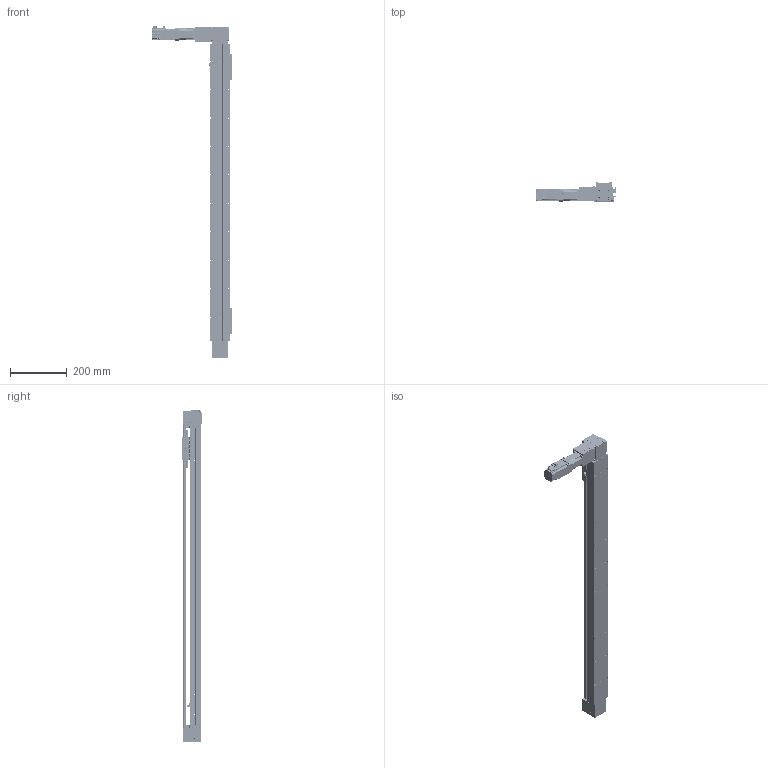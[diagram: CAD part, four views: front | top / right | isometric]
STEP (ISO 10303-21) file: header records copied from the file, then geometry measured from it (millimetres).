
FILE_DESCRIPTION(/* description */ (''),/* implementation_level */ '2;1');
FILE_NAME(/* name */ '\\192.168.0.160\disk1\HAN SHIN Master\B-설계부문\C-표준\B-2024년\BC02-표준도면\+로봇 개선표준도면\홈페이지 표준 도면\홈페이지 최종 작업 폴더\3D\HB\HSB55\HB55-SL1G-N-0900-R.stp',/* time_stamp */ '2025-06-03T10:03:53+09:00',/* author */ ('user'),/* organization */ (''),/* preprocessor_version */ 'ST-DEVELOPER v18.1',/* originating_system */ 'Autodesk Inventor 2022',/* authorisation */ '');
FILE_SCHEMA (('AUTOMOTIVE_DESIGN { 1 0 10303 214 3 1 1 }'));
Products named in the file (38): HSB55-SL; HSB55 BASE; HSB55 TABLE; UPCOVER; HSB55 HOUSING (Connecting); HSB160 SHAFT-1; HSB55 FRONT HOUSIONG; HSB55 REAR SHAFT-1; HSB55 REAR SHAFT; HSB55 DOWN CLAMP; M4-25(렌치볼트); HSB55 HOUSING-R1; HSB55 TENSION PLATE; ISO 4032 - M4; HSB160 BEARING OVER; SDWA-31C; HSB55 UP CLAMP; M4-12(렌치볼트); HR45 SENSOR DOG; HR45 SENSOR RAIL; hsr_ftht_A-M6F_grease_nipple_joint; NIPPLE CAP(신규); HR45 STOPPER; HSB55 END COVER; PGX44-H-1_3; COUPLING COVER; EC-6202ZZ; EC-6202ZZ Inner ring; EC-6202ZZ Outer ring; EC-6202ZZ St; EC-6202ZZ Ball; EC-6202ZZ B1; HSB55 MOTOR BKT 01; HSB55 MOTOR BKT 02; HSB55 ACRYL COVER-R1; HSB55 ACRYL COVER; EE_SX674A; hg-kr13_
Assembly tree (61 placements, depth 3):
  HSB55-SL
    HSB55 BASE
    HSB55 TABLE
    UPCOVER
    HSB55 FRONT HOUSIONG  x2
    HSB55 HOUSING (Connecting)
    HSB160 SHAFT-1
    HSB55 REAR SHAFT-1
    #109336  x2
    HSB55 REAR SHAFT
    HSB55 DOWN CLAMP  x2
    HSB55 UP CLAMP  x2
    M4-25(렌치볼트)
    ISO 4032 - M4  x2
    HSB55 HOUSING-R1
    HSB55 TENSION PLATE  x2
    HSB160 BEARING OVER
    SDWA-31C
    M4-12(렌치볼트)
    HR45 SENSOR DOG
    HR45 SENSOR RAIL  x2
    EE_SX674A  x3
    hsr_ftht_A-M6F_grease_nipple_joint
    NIPPLE CAP(신규)
    HR45 STOPPER  x2
    HSB55 END COVER
    PGX44-H-1_3
    HSB55 MOTOR BKT 02  x2
    COUPLING COVER
    EC-6202ZZ  x2
      EC-6202ZZ Inner ring
      EC-6202ZZ Outer ring
      EC-6202ZZ B1
      EC-6202ZZ St
      EC-6202ZZ Ball
    HSB55 MOTOR BKT 01
    HSB55 ACRYL COVER  x4
    HSB55 ACRYL COVER-R1
    hg-kr13_
Bounding box: 284.4 x 69.2 x 1167.8 mm (x, y, z)
Volume: 2052171.1 mm3; surface area: 864514.8 mm2
Topology: 87 solids, 119 shells, 4585 faces, 12249 edges, 7960 vertices
Faces by surface type: plane 2800, cylinder 1286, cone 352, torus 103, sphere 22, bspline 22
Full cylindrical faces by diameter (mm): 1 x2, 2 x3, 2.013 x4, 2.459 x70, 2.5 x25, 3 x37, 3.1 x2, 3.242 x78, 3.3 x13, 3.5 x83, 4 x20, 4.134 x20, 4.2 x4, 4.5 x40, 4.917 x2, 5 x29, 5.5 x11, 5.6 x3, 5.9 x4, 6 x50, 6.45 x10, 6.5 x4, 7 x6, 7.5 x4, 8 x17, 8.2 x1, 9 x2, 9.5 x2, 10 x1, 11.5 x2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
Entity records: 109280 total; most frequent: CARTESIAN_POINT 22932, DIRECTION 18119, ORIENTED_EDGE 17308, EDGE_CURVE 8654, AXIS2_PLACEMENT_3D 6552, VERTEX_POINT 5650, LINE 5015, VECTOR 5015
